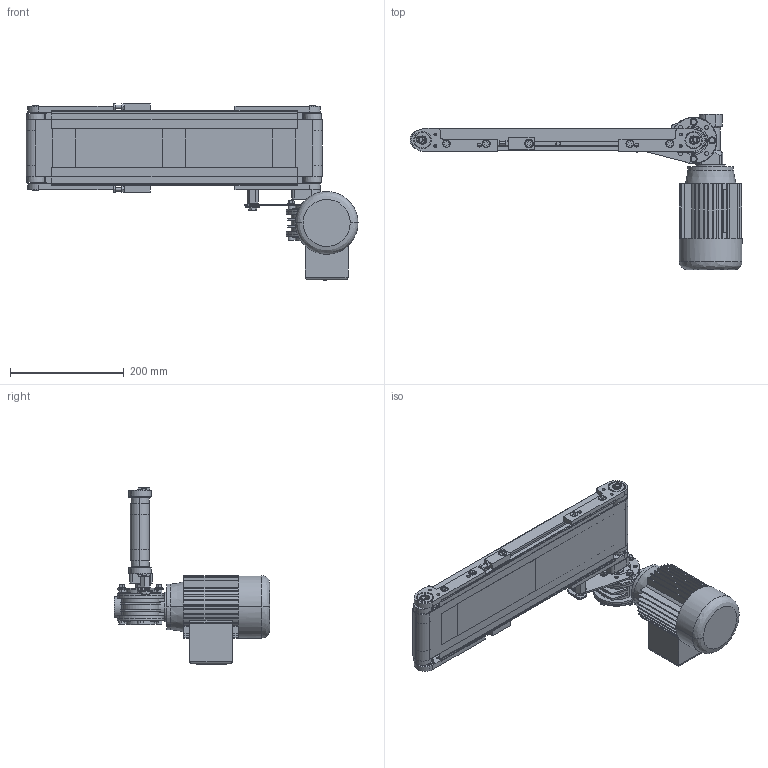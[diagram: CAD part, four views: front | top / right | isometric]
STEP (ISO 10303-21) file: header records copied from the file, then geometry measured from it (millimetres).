
FILE_DESCRIPTION (( 'STEP AP203' ), '1' );
FILE_NAME ('NASTRO_RETTILINEO_TAPPETO.step', '2026-04-21T08:41:56', ( 'Utente Windows' ), ( '' ), 'SwSTEP 2.0', 'SolidWorks 2024', '' );
FILE_SCHEMA (( 'CONFIG_CONTROL_DESIGN' ));
Length unit declared in the file: millimetre
Products named in the file (31): 084.301.000 VITI ALUSIC_084.301.002; RONDELLE UNI 6592_6.4x12.5 UNI 6592; GRANI A PUNTA PIATTA UNI 5923_M8x20 UNI 5923; 084.802.008; 084.301.000 VITI ALUSIC_084.301.011; RULLO_30_TRAINO_30_SX; 084.801.027 sx; RULLO_30_RINVIO; RONDELLE FASCIA LARGA UNI 6593_8.4x24 UNI 6593; 084.807.005; 084.802.027; NASTRO_RETTILINEO_TAPPETO; CUSCINETTI CB_CB 202; CH03P_SX; BLOCCO_TRAINO_30_STANDARD_30_SX_MOTORE A SINISTRA; VITI TE UNI 5739_M8x16 UNI 5739; 084.301.000 VITI ALUSIC_084.301.003; TAPPETO_STANDARD; 62012RSBOMB_62012RSBOMB; LAMIERA_STANDARD; BLOCCO_TRAINO_30_STANDARD_DX_MOTORE A SINISTRA; 084.801.027 dx; BLOCCO_RINVIO_30_STANDARD_SX; VITI TE UNI 5739_M6x10 UNI 5739; 084.303.001; VITE_RONDELLA_M8X20; TELAIO_30_STANDARD_Default<A macchina>; 084.802.062; BLOCCO_RINVIO_30_STANDARD_DX; 084.302.000 DADI ALUSIC 13x13-1_084.302.004; 084.801.025
Assembly tree (62 placements, depth 3):
  NASTRO_RETTILINEO_TAPPETO
    TAPPETO_STANDARD
    TELAIO_30_STANDARD_Default<A macchina>
    LAMIERA_STANDARD
    RULLO_30_TRAINO_30_SX
    BLOCCO_TRAINO_30_STANDARD_DX_MOTORE A SINISTRA
      084.801.027 dx
      62012RSBOMB_62012RSBOMB
      084.301.000 VITI ALUSIC_084.301.002  x2
      084.302.000 DADI ALUSIC 13x13-1_084.302.004  x2
    BLOCCO_TRAINO_30_STANDARD_30_SX_MOTORE A SINISTRA
      084.802.027
      084.807.005
      084.801.027 sx
      084.801.025
      CUSCINETTI CB_CB 202
      RONDELLE FASCIA LARGA UNI 6593_8.4x24 UNI 6593
      VITI TE UNI 5739_M8x16 UNI 5739
      084.302.000 DADI ALUSIC 13x13-1_084.302.004  x2
      084.301.000 VITI ALUSIC_084.301.011  x2
      084.301.000 VITI ALUSIC_084.301.002  x2
      GRANI A PUNTA PIATTA UNI 5923_M8x20 UNI 5923
      RONDELLE UNI 6592_6.4x12.5 UNI 6592  x4
      VITI TE UNI 5739_M6x10 UNI 5739  x4
      084.802.062
    RULLO_30_RINVIO
    BLOCCO_RINVIO_30_STANDARD_SX
      084.802.008
      084.801.027 sx
      62012RSBOMB_62012RSBOMB
      084.302.000 DADI ALUSIC 13x13-1_084.302.004  x3
      084.301.000 VITI ALUSIC_084.301.002  x2
      084.301.000 VITI ALUSIC_084.301.003
    BLOCCO_RINVIO_30_STANDARD_DX
      084.802.008
      084.801.027 dx
      62012RSBOMB_62012RSBOMB
      084.302.000 DADI ALUSIC 13x13-1_084.302.004  x3
      084.301.000 VITI ALUSIC_084.301.002  x2
      084.301.000 VITI ALUSIC_084.301.003
    VITE_RONDELLA_M8X20  x3
      084.303.001
      084.301.000 VITI ALUSIC_084.301.003
    CH03P_SX
Bounding box: 583 x 273 x 309.4 mm (x, y, z)
Volume: 3084508.2 mm3; surface area: 981934.7 mm2
Topology: 71 solids, 73 shells, 2131 faces, 5377 edges, 3470 vertices
Faces by surface type: plane 1134, cylinder 661, cone 154, torus 98, bspline 64, sphere 20
Entity records: 48967 total; most frequent: CARTESIAN_POINT 10133, DIRECTION 7442, ORIENTED_EDGE 7066, EDGE_CURVE 3533, AXIS2_PLACEMENT_3D 2650, VERTEX_POINT 2279, LINE 2142, VECTOR 2142
